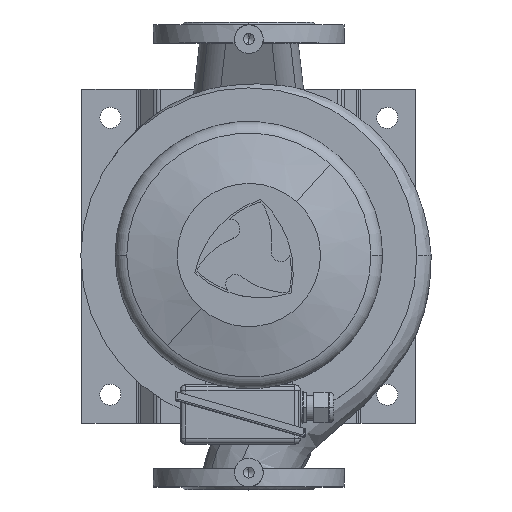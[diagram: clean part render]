
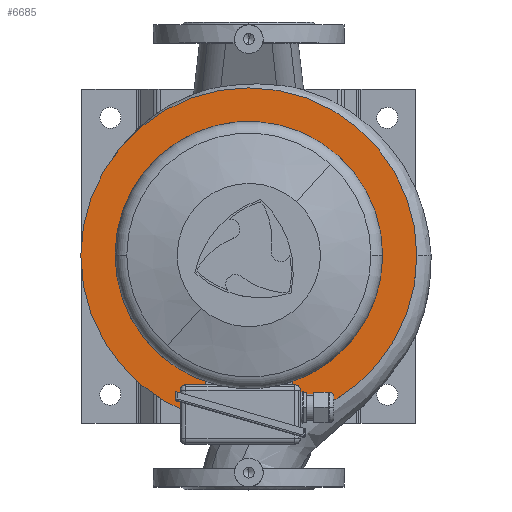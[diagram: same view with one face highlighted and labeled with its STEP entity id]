
A CAD part, top view. The second image highlights one B-rep face of the part: STEP entity #6685.
In plain terms, the highlighted planar face has unit normal (0, 0, 1) as drawn and (1, 0, 0) by its records, which use the part's own axes.
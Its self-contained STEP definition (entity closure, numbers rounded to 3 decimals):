
#6685=ADVANCED_FACE('',(#12946,#12947),#12948,.T.);
#6709=EDGE_CURVE('',#12987,#12988,#12989,.T.);
#6733=EDGE_CURVE('',#13031,#13032,#13033,.T.);
#6741=EDGE_CURVE('',#13041,#13044,#13045,.T.);
#6749=EDGE_CURVE('',#13053,#13056,#13057,.T.);
#6755=EDGE_CURVE('',#13060,#13032,#13065,.T.);
#6757=EDGE_CURVE('',#13067,#13044,#13068,.T.);
#6765=EDGE_CURVE('',#13079,#13075,#13080,.T.);
#6773=EDGE_CURVE('',#13090,#13086,#13091,.T.);
#6781=EDGE_CURVE('',#13097,#13100,#13101,.T.);
#6791=EDGE_CURVE('',#13111,#13041,#13114,.T.);
#6797=EDGE_CURVE('',#13119,#13053,#13122,.T.);
#6805=EDGE_CURVE('',#13130,#13125,#13133,.T.);
#6807=EDGE_CURVE('',#13056,#13075,#13135,.T.);
#6811=EDGE_CURVE('',#13125,#13086,#13139,.T.);
#6815=EDGE_CURVE('',#13100,#13031,#13143,.T.);
#6819=EDGE_CURVE('',#13067,#13119,#13147,.T.);
#6823=EDGE_CURVE('',#13079,#13130,#13151,.T.);
#6825=EDGE_CURVE('',#13060,#13111,#13153,.T.);
#6829=EDGE_CURVE('',#12988,#12987,#13157,.T.);
#6831=EDGE_CURVE('',#13090,#13097,#13159,.T.);
#12946=FACE_OUTER_BOUND('',#26549,.T.);
#12947=FACE_BOUND('',#26550,.T.);
#12948=PLANE('',#26551);
#12987=VERTEX_POINT('',#26592);
#12988=VERTEX_POINT('',#26593);
#12989=CIRCLE('',#26594,176.0);
#13031=VERTEX_POINT('',#26648);
#13032=VERTEX_POINT('',#26649);
#13033=CIRCLE('',#26650,117.907);
#13041=VERTEX_POINT('',#26670);
#13044=VERTEX_POINT('',#26683);
#13045=CIRCLE('',#26684,117.907);
#13053=VERTEX_POINT('',#26704);
#13056=VERTEX_POINT('',#26717);
#13057=CIRCLE('',#26718,117.907);
#13060=VERTEX_POINT('',#26722);
#13065=LINE('',#26739,#26740);
#13067=VERTEX_POINT('',#26743);
#13068=LINE('',#26744,#26745);
#13075=VERTEX_POINT('',#26765);
#13079=VERTEX_POINT('',#26779);
#13080=LINE('',#26780,#26781);
#13086=VERTEX_POINT('',#26800);
#13090=VERTEX_POINT('',#26814);
#13091=LINE('',#26815,#26816);
#13097=VERTEX_POINT('',#26835);
#13100=VERTEX_POINT('',#26848);
#13101=LINE('',#26849,#26850);
#13111=VERTEX_POINT('',#26875);
#13114=LINE('',#26888,#26889);
#13119=VERTEX_POINT('',#26897);
#13122=LINE('',#26910,#26911);
#13125=VERTEX_POINT('',#26915);
#13130=VERTEX_POINT('',#26932);
#13133=LINE('',#26945,#26946);
#13135=CIRCLE('',#26949,117.907);
#13139=CIRCLE('',#26955,117.907);
#13143=CIRCLE('',#26961,117.907);
#13147=CIRCLE('',#26967,128.0);
#13151=CIRCLE('',#26973,128.0);
#13153=CIRCLE('',#26976,128.0);
#13157=CIRCLE('',#26982,176.0);
#13159=CIRCLE('',#26985,128.0);
#26549=EDGE_LOOP('',(#35912,#35913));
#26550=EDGE_LOOP('',(#35914,#35915,#35916,#35917,#35918,#35919,#35920,#35921,#35922,#35923,#35924,#35925,#35926,#35927,#35928,#35929,#35930,#35931));
#26551=AXIS2_PLACEMENT_3D('',#35932,#35933,#35934);
#26592=CARTESIAN_POINT('',(19.0,176.0,0.0));
#26593=CARTESIAN_POINT('',(19.0,-176.0,0.));
#26594=AXIS2_PLACEMENT_3D('',#36034,#36035,#36036);
#26648=CARTESIAN_POINT('',(19.0,-117.907,0.));
#26649=CARTESIAN_POINT('',(19.0,-105.762,-52.12));
#26650=AXIS2_PLACEMENT_3D('',#36070,#36071,#36072);
#26670=CARTESIAN_POINT('',(19.0,-52.12,-105.762));
#26683=CARTESIAN_POINT('',(19.0,52.12,-105.762));
#26684=AXIS2_PLACEMENT_3D('',#36076,#36077,#36078);
#26704=CARTESIAN_POINT('',(19.0,105.762,-52.12));
#26717=CARTESIAN_POINT('',(19.0,117.907,0.));
#26718=AXIS2_PLACEMENT_3D('',#36082,#36083,#36084);
#26722=CARTESIAN_POINT('',(19.0,-115.686,-54.779));
#26739=CARTESIAN_POINT('',(19.0,-115.686,-54.779));
#26740=VECTOR('',#36086,1.0);
#26743=CARTESIAN_POINT('',(19.0,54.779,-115.686));
#26744=CARTESIAN_POINT('',(19.0,54.779,-115.686));
#26745=VECTOR('',#36087,1.0);
#26765=CARTESIAN_POINT('',(19.0,105.762,52.12));
#26779=CARTESIAN_POINT('',(19.0,115.686,54.779));
#26780=CARTESIAN_POINT('',(19.0,115.686,54.779));
#26781=VECTOR('',#36089,1.0);
#26800=CARTESIAN_POINT('',(19.0,-52.12,105.762));
#26814=CARTESIAN_POINT('',(19.0,-54.779,115.686));
#26815=CARTESIAN_POINT('',(19.0,-54.779,115.686));
#26816=VECTOR('',#36091,1.0);
#26835=CARTESIAN_POINT('',(19.0,-115.686,54.779));
#26848=CARTESIAN_POINT('',(19.0,-105.762,52.12));
#26849=CARTESIAN_POINT('',(19.0,-115.686,54.779));
#26850=VECTOR('',#36093,1.0);
#26875=CARTESIAN_POINT('',(19.0,-54.779,-115.686));
#26888=CARTESIAN_POINT('',(19.0,-54.779,-115.686));
#26889=VECTOR('',#36096,1.0);
#26897=CARTESIAN_POINT('',(19.0,115.686,-54.779));
#26910=CARTESIAN_POINT('',(19.0,115.686,-54.779));
#26911=VECTOR('',#36098,1.0);
#26915=CARTESIAN_POINT('',(19.0,52.12,105.762));
#26932=CARTESIAN_POINT('',(19.0,54.779,115.686));
#26945=CARTESIAN_POINT('',(19.0,54.779,115.686));
#26946=VECTOR('',#36100,1.0);
#26949=AXIS2_PLACEMENT_3D('',#36101,#36102,#36103);
#26955=AXIS2_PLACEMENT_3D('',#36107,#36108,#36109);
#26961=AXIS2_PLACEMENT_3D('',#36113,#36114,#36115);
#26967=AXIS2_PLACEMENT_3D('',#36119,#36120,#36121);
#26973=AXIS2_PLACEMENT_3D('',#36125,#36126,#36127);
#26976=AXIS2_PLACEMENT_3D('',#36128,#36129,#36130);
#26982=AXIS2_PLACEMENT_3D('',#36134,#36135,#36136);
#26985=AXIS2_PLACEMENT_3D('',#36137,#36138,#36139);
#35912=ORIENTED_EDGE('',*,*,#6709,.T.);
#35913=ORIENTED_EDGE('',*,*,#6829,.T.);
#35914=ORIENTED_EDGE('',*,*,#6831,.F.);
#35915=ORIENTED_EDGE('',*,*,#6773,.T.);
#35916=ORIENTED_EDGE('',*,*,#6811,.F.);
#35917=ORIENTED_EDGE('',*,*,#6805,.F.);
#35918=ORIENTED_EDGE('',*,*,#6823,.F.);
#35919=ORIENTED_EDGE('',*,*,#6765,.T.);
#35920=ORIENTED_EDGE('',*,*,#6807,.F.);
#35921=ORIENTED_EDGE('',*,*,#6749,.F.);
#35922=ORIENTED_EDGE('',*,*,#6797,.F.);
#35923=ORIENTED_EDGE('',*,*,#6819,.F.);
#35924=ORIENTED_EDGE('',*,*,#6757,.T.);
#35925=ORIENTED_EDGE('',*,*,#6741,.F.);
#35926=ORIENTED_EDGE('',*,*,#6791,.F.);
#35927=ORIENTED_EDGE('',*,*,#6825,.F.);
#35928=ORIENTED_EDGE('',*,*,#6755,.T.);
#35929=ORIENTED_EDGE('',*,*,#6733,.F.);
#35930=ORIENTED_EDGE('',*,*,#6815,.F.);
#35931=ORIENTED_EDGE('',*,*,#6781,.F.);
#35932=CARTESIAN_POINT('',(19.0,152.0,0.0));
#35933=DIRECTION('',(1.0,0.0,0.0));
#35934=DIRECTION('',(0.0,0.0,-1.0));
#36034=CARTESIAN_POINT('',(19.0,0.0,0.0));
#36035=DIRECTION('',(1.0,0.0,0.0));
#36036=DIRECTION('',(0.0,1.0,0.0));
#36070=CARTESIAN_POINT('',(19.0,0.0,0.0));
#36071=DIRECTION('',(1.0,0.0,0.0));
#36072=DIRECTION('',(0.0,1.0,0.0));
#36076=CARTESIAN_POINT('',(19.0,0.0,0.0));
#36077=DIRECTION('',(1.0,0.0,0.0));
#36078=DIRECTION('',(0.0,1.0,0.0));
#36082=CARTESIAN_POINT('',(19.0,0.0,0.0));
#36083=DIRECTION('',(1.0,0.0,0.0));
#36084=DIRECTION('',(0.0,1.0,0.0));
#36086=DIRECTION('',(0.,0.966,0.259));
#36087=DIRECTION('',(0.,-0.259,0.966));
#36089=DIRECTION('',(0.,-0.966,-0.259));
#36091=DIRECTION('',(0.,0.259,-0.966));
#36093=DIRECTION('',(0.,0.966,-0.259));
#36096=DIRECTION('',(0.,0.259,0.966));
#36098=DIRECTION('',(0.,-0.966,0.259));
#36100=DIRECTION('',(0.,-0.259,-0.966));
#36101=CARTESIAN_POINT('',(19.0,0.0,0.0));
#36102=DIRECTION('',(1.0,0.0,0.0));
#36103=DIRECTION('',(0.0,1.0,0.0));
#36107=CARTESIAN_POINT('',(19.0,0.0,0.0));
#36108=DIRECTION('',(1.0,0.0,0.0));
#36109=DIRECTION('',(0.0,1.0,0.0));
#36113=CARTESIAN_POINT('',(19.0,0.0,0.0));
#36114=DIRECTION('',(1.0,0.0,0.0));
#36115=DIRECTION('',(0.0,1.0,0.0));
#36119=CARTESIAN_POINT('',(19.0,0.0,0.0));
#36120=DIRECTION('',(1.0,0.0,0.0));
#36121=DIRECTION('',(0.0,1.0,0.0));
#36125=CARTESIAN_POINT('',(19.0,0.0,0.0));
#36126=DIRECTION('',(1.0,0.0,0.0));
#36127=DIRECTION('',(0.0,1.0,0.0));
#36128=CARTESIAN_POINT('',(19.0,0.0,0.0));
#36129=DIRECTION('',(1.0,0.0,0.0));
#36130=DIRECTION('',(0.0,1.0,0.0));
#36134=CARTESIAN_POINT('',(19.0,0.0,0.0));
#36135=DIRECTION('',(1.0,0.0,0.0));
#36136=DIRECTION('',(0.0,1.0,0.0));
#36137=CARTESIAN_POINT('',(19.0,0.0,0.0));
#36138=DIRECTION('',(1.0,0.0,0.0));
#36139=DIRECTION('',(0.0,1.0,0.0));
